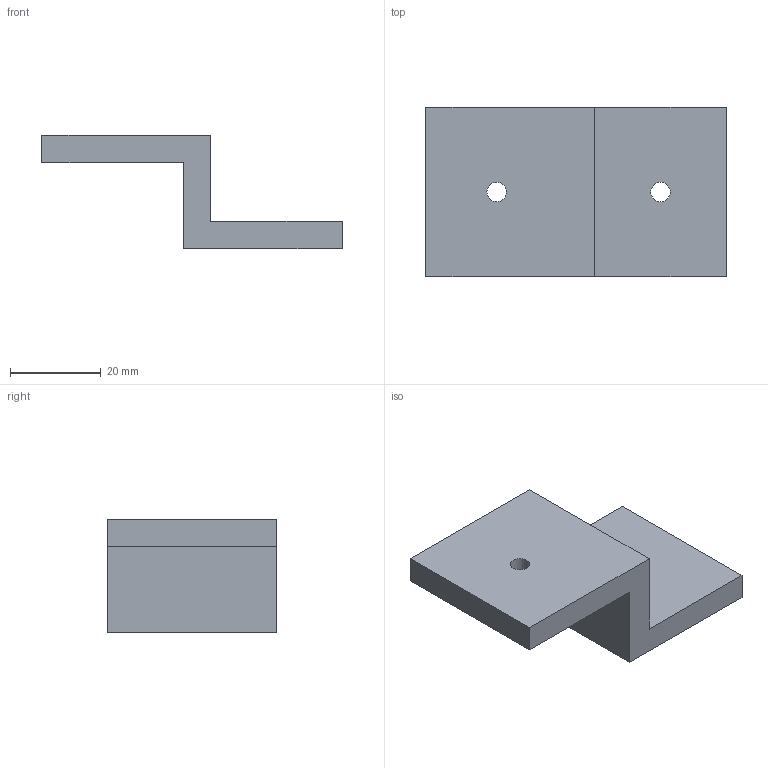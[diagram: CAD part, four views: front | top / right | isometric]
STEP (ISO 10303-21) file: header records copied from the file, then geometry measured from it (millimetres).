
FILE_DESCRIPTION(('Mechanical CAD reference from nasji.com'),'2;1');
FILE_NAME('NASJI.step','',(''),(''),'','NASJI distribution','');
FILE_SCHEMA(('AUTOMOTIVE_DESIGN { 1 0 10303 214 1 1 1 1 }'));
Length unit declared in the file: millimetre
Products named in the file (1): Open CASCADE STEP translator 7.8 154
Bounding box: 66.3 x 37.36 x 25 mm (x, y, z)
Volume: 18946.6 mm3; surface area: 7949.6 mm2
Topology: 1 solids, 1 shells, 12 faces, 30 edges, 20 vertices
Faces by surface type: plane 10, cylinder 2
Full cylindrical faces by diameter (mm): 4.3 x2
Entity records: 775 total; most frequent: CARTESIAN_POINT 150, DIRECTION 113, LINE 79, VECTOR 79, ORIENTED_EDGE 60, PCURVE 60, DEFINITIONAL_REPRESENTATION 60, EDGE_CURVE 30
